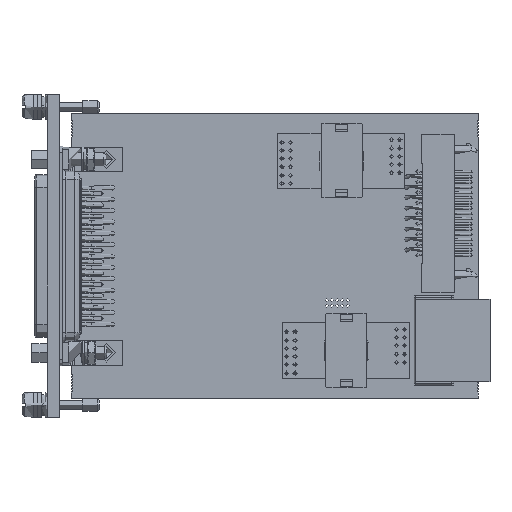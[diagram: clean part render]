
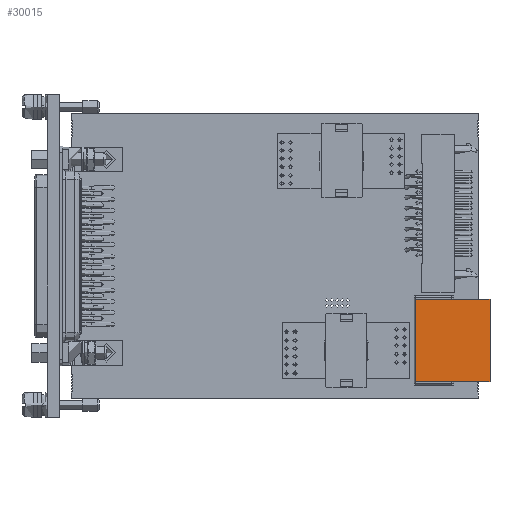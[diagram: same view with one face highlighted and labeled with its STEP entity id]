
A CAD part, top view. The second image highlights one B-rep face of the part: STEP entity #30015.
In plain terms, the highlighted planar face has unit normal (0, 0, 1).
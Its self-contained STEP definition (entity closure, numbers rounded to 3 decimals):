
#30015=ADVANCED_FACE('',(#70450),#70452,.T.);
#70450=FACE_BOUND('',#70451,.T.);
#70451=EDGE_LOOP('',(#105317,#105318,#105319,#105320));
#70452=PLANE('',#70453);
#70453=AXIS2_PLACEMENT_3D('',#70454,#70455,#70456);
#70454=CARTESIAN_POINT('',(83.8,4.2,13.5));
#70455=DIRECTION('',(0.,0.,1.));
#70456=DIRECTION('',(1.,0.,0.));
#105317=ORIENTED_EDGE('',*,*,#122034,.T.);
#105318=ORIENTED_EDGE('',*,*,#122752,.T.);
#105319=ORIENTED_EDGE('',*,*,#121974,.F.);
#105320=ORIENTED_EDGE('',*,*,#122751,.F.);
#121974=EDGE_CURVE('',#141121,#141123,#141124,.T.);
#122034=EDGE_CURVE('',#141189,#141187,#141190,.T.);
#122751=EDGE_CURVE('',#141189,#141121,#142386,.T.);
#122752=EDGE_CURVE('',#141187,#141123,#142387,.T.);
#141121=VERTEX_POINT('',#191506);
#141123=VERTEX_POINT('',#191510);
#141124=LINE('',#191511,#191512);
#141187=VERTEX_POINT('',#191693);
#141189=VERTEX_POINT('',#191697);
#141190=LINE('',#191698,#191699);
#142386=LINE('',#195228,#195229);
#142387=LINE('',#195231,#195232);
#191506=CARTESIAN_POINT('',(83.8,24.2,13.5));
#191510=CARTESIAN_POINT('',(101.8,24.2,13.5));
#191511=CARTESIAN_POINT('',(83.8,24.2,13.5));
#191512=VECTOR('',#191513,1.);
#191513=DIRECTION('',(1.,0.,0.));
#191693=CARTESIAN_POINT('',(101.8,4.2,13.5));
#191697=CARTESIAN_POINT('',(83.8,4.2,13.5));
#191698=CARTESIAN_POINT('',(83.8,4.2,13.5));
#191699=VECTOR('',#191700,1.);
#191700=DIRECTION('',(1.,0.,0.));
#195228=CARTESIAN_POINT('',(83.8,4.2,13.5));
#195229=VECTOR('',#195230,1.);
#195230=DIRECTION('',(0.,1.,0.));
#195231=CARTESIAN_POINT('',(101.8,4.2,13.5));
#195232=VECTOR('',#195233,1.);
#195233=DIRECTION('',(0.,1.,0.));
